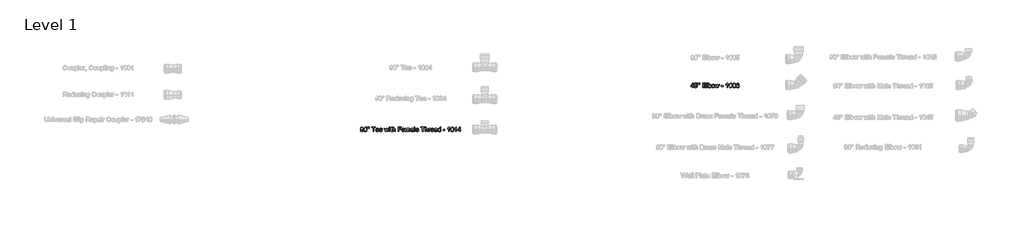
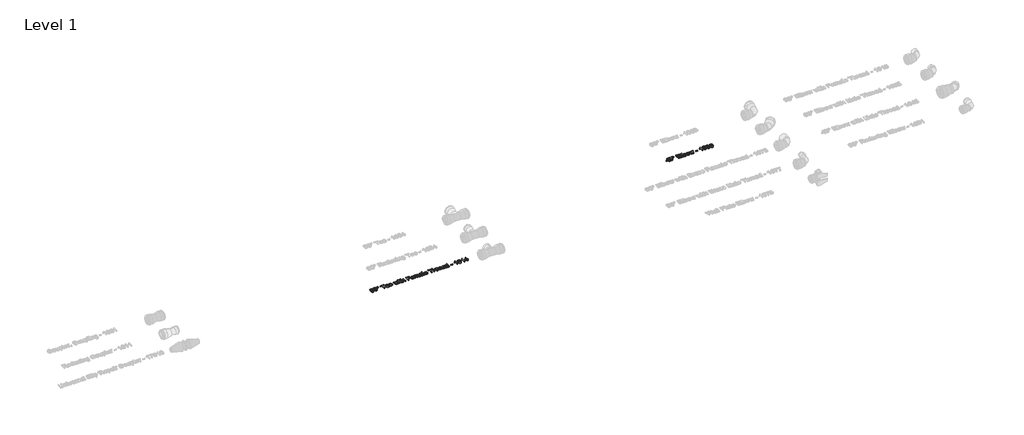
# One storey, part 3 of 13: 2 proxies.
"""IFC4 building model written with IfcOpenShell, lengths in millimetres."""

from ifc_helpers import new_model, si_unit, origin, origin_with_axes, place, context, project, spatial, polyline, outline, extrude, element, save

model = new_model("IFC4")

# Units and contexts
model_context = context("Model", 3, world=origin())
ifc_project = project(units=[si_unit("LENGTHUNIT", "METRE", prefix="MILLI")], contexts=[model_context])

# Site, building, storey
site = spatial("IfcSite", under=ifc_project)
building = spatial("IfcBuilding", under=site)
storey = spatial("IfcBuildingStorey", under=building, Name="Level 1", Elevation=0.0)

# Proxies
placement = place(None, origin())
element("IfcBuildingElementProxy", 1, Name="30 mm Arial", ObjectType="30 mm Arial", at=placement, inside=storey, context=model_context, shape_type="SweptSolid", body=[
    extrude(outline(polyline([(12191.1808706, 4725.613085), (12191.1808706, 4732.5361619), (12177.7962552, 4732.5361619), (12177.7962552, 4736.2284696), (12192.1039475, 4754.6900081), (12194.8731783, 4754.6900081), (12194.8731783, 4736.2284696), (12198.565486, 4736.2284696), (12198.565486, 4732.5361619), (12194.8731783, 4732.5361619), (12194.8731783, 4725.613085), (12191.1808706, 4725.613085)]), holes=[polyline([(12191.1808706, 4736.2284696), (12191.1808706, 4747.6371235), (12182.3395244, 4736.2284696), (12191.1808706, 4736.2284696)])]), origin_with_axes(), (0.0, 0.0, 1.0), 5.0),
    extrude(outline(polyline([(12201.7962552, 4733.4592389), (12205.4885629, 4733.9207773), (12207.3491398, 4730.1166908), (12211.2073129, 4728.8438542), (12215.8371206, 4730.6142869), (12217.4885629, 4735.3126042), (12215.9416879, 4739.6972196), (12211.2650052, 4741.3053927), (12208.0234186, 4740.6635658), (12205.9501013, 4738.9977004), (12202.2577936, 4739.4592389), (12205.4885629, 4754.6900081), (12219.7962552, 4754.6900081), (12219.7962552, 4750.9977004), (12208.4741398, 4750.9977004), (12206.8948129, 4742.863085), (12212.2962552, 4744.9977004), (12218.6099571, 4742.3510658), (12221.1808706, 4735.5433735), (12218.8659667, 4728.6924119), (12211.1928898, 4725.1515465), (12204.6772648, 4727.4267869), (12201.7962552, 4733.4592389)])), origin_with_axes(), (0.0, 0.0, 1.0), 5.0),
    extrude(outline(polyline([(12225.3347167, 4750.081835), (12226.9609186, 4753.9977004), (12230.8659667, 4755.613085), (12234.7962552, 4753.9977004), (12236.4116398, 4750.081835), (12234.7854379, 4746.1623639), (12230.8659667, 4744.5361619), (12226.9609186, 4746.1515465), (12225.3347167, 4750.081835)]), holes=[polyline([(12227.642409, 4750.0746235), (12228.5907263, 4747.7885658), (12230.8803898, 4746.8438542), (12233.1556302, 4747.7885658), (12234.1039475, 4750.0746235), (12233.1556302, 4752.3606812), (12230.8803898, 4753.3053927), (12228.5907263, 4752.3606812), (12227.642409, 4750.0746235)])]), origin_with_axes(), (0.0, 0.0, 1.0), 5.0),
    extrude(outline(polyline([(12253.9501013, 4725.613085), (12253.9501013, 4755.1515465), (12275.1808706, 4755.1515465), (12275.1808706, 4751.4592389), (12257.642409, 4751.4592389), (12257.642409, 4742.6900081), (12274.2577936, 4742.6900081), (12274.2577936, 4738.9977004), (12257.642409, 4738.9977004), (12257.642409, 4729.3053927), (12275.642409, 4729.3053927), (12275.642409, 4725.613085), (12253.9501013, 4725.613085)])), origin_with_axes(), (0.0, 0.0, 1.0), 5.0),
    extrude(outline(polyline([(12280.7193321, 4725.613085), (12280.7193321, 4755.1515465), (12284.4116398, 4755.1515465), (12284.4116398, 4725.613085), (12280.7193321, 4725.613085)])), origin_with_axes(), (0.0, 0.0, 1.0), 5.0),
    extrude(outline(polyline([(12293.642409, 4725.613085), (12289.9501013, 4725.613085), (12289.9501013, 4755.1515465), (12293.642409, 4755.1515465), (12293.642409, 4744.1972196), (12299.440486, 4747.7669312), (12303.1400052, 4746.9628446), (12306.0101975, 4744.7020273), (12307.7734186, 4741.1864023), (12308.4116398, 4736.7837581), (12305.768611, 4728.1876042), (12299.4188513, 4725.1515465), (12293.642409, 4729.0674119), (12293.642409, 4725.613085)]), holes=[polyline([(12293.642409, 4736.6106812), (12294.6520244, 4731.4472196), (12299.1015436, 4728.8438542), (12303.0534667, 4730.7621235), (12304.7193321, 4736.4808735), (12303.1219763, 4742.2212581), (12299.2601975, 4744.0746235), (12295.3082744, 4742.1563542), (12293.642409, 4736.6106812)])]), origin_with_axes(), (0.0, 0.0, 1.0), 5.0),
    extrude(outline(polyline([(12311.642409, 4736.4592389), (12314.8371206, 4745.3654889), (12321.3419283, 4747.7669312), (12328.3190917, 4744.8426523), (12331.0270244, 4736.7621235), (12329.829909, 4730.1924119), (12326.3431302, 4726.4748639), (12321.3419283, 4725.1515465), (12314.3214956, 4728.0650081), (12311.642409, 4736.4592389)]), holes=[polyline([(12315.3347167, 4736.4664504), (12317.0438513, 4730.7440946), (12321.3419283, 4728.8438542), (12325.6255821, 4730.7549119), (12327.3347167, 4736.581835), (12325.6147648, 4742.1743831), (12321.3419283, 4744.0746235), (12317.0438513, 4742.1815946), (12315.3347167, 4736.4664504)])]), origin_with_axes(), (0.0, 0.0, 1.0), 5.0),
    extrude(outline(polyline([(12338.7794283, 4725.613085), (12332.1808706, 4747.3053927), (12336.017409, 4747.3053927), (12339.7601975, 4734.6491427), (12340.877986, 4730.1275081), (12341.7938513, 4734.4832773), (12344.7722167, 4747.3053927), (12349.1712552, 4747.3053927), (12352.1351975, 4734.519335), (12352.9501013, 4730.5746235), (12354.1183706, 4734.7356812), (12357.8683706, 4747.3053927), (12361.7193321, 4747.3053927), (12355.0702936, 4725.613085), (12350.6063513, 4725.613085), (12347.7722167, 4738.3342389), (12346.9501013, 4742.300585), (12343.2938513, 4725.613085), (12338.7794283, 4725.613085)])), origin_with_axes(), (0.0, 0.0, 1.0), 5.0),
    extrude(outline(polyline([(12373.9501013, 4734.3823158), (12373.9501013, 4738.0746235), (12385.4885629, 4738.0746235), (12385.4885629, 4734.3823158), (12373.9501013, 4734.3823158)])), origin_with_axes(), (0.0, 0.0, 1.0), 5.0),
    extrude(outline(polyline([(12414.1039475, 4725.613085), (12410.4116398, 4725.613085), (12410.4116398, 4748.6323158), (12406.9140436, 4746.1407292), (12403.0270244, 4744.2765465), (12403.0270244, 4747.7669312), (12408.439284, 4751.2212581), (12411.7241398, 4755.1515465), (12414.1039475, 4755.1515465), (12414.1039475, 4725.613085)])), origin_with_axes(), (0.0, 0.0, 1.0), 5.0),
    extrude(outline(polyline([(12422.8731783, 4740.144335), (12423.9585148, 4748.6431331), (12427.1820725, 4753.5433735), (12432.565486, 4755.1515465), (12436.877986, 4754.1996235), (12439.8563513, 4751.4556331), (12441.5871206, 4747.0854408), (12442.2577936, 4740.144335), (12441.1832744, 4731.6815946), (12437.970534, 4726.7705369), (12432.565486, 4725.1515465), (12425.815486, 4727.9640465), (12422.8731783, 4740.144335)]), holes=[polyline([(12426.565486, 4740.1515465), (12428.2962552, 4730.9820754), (12432.565486, 4728.8438542), (12436.8347167, 4730.9892869), (12438.565486, 4740.1515465), (12436.892409, 4749.2164504), (12432.5222167, 4751.4592389), (12428.3539475, 4749.4832773), (12426.565486, 4740.1515465)])]), origin_with_axes(), (0.0, 0.0, 1.0), 5.0),
    extrude(outline(polyline([(12445.4885629, 4740.144335), (12446.5738994, 4748.6431331), (12449.7974571, 4753.5433735), (12455.1808706, 4755.1515465), (12459.4933706, 4754.1996235), (12462.471736, 4751.4556331), (12464.2025052, 4747.0854408), (12464.8731783, 4740.144335), (12463.798659, 4731.6815946), (12460.5859186, 4726.7705369), (12455.1808706, 4725.1515465), (12448.4308706, 4727.9640465), (12445.4885629, 4740.144335)]), holes=[polyline([(12449.1808706, 4740.1515465), (12450.9116398, 4730.9820754), (12455.1808706, 4728.8438542), (12459.4501013, 4730.9892869), (12461.1808706, 4740.1515465), (12459.5077936, 4749.2164504), (12455.1376013, 4751.4592389), (12450.9693321, 4749.4832773), (12449.1808706, 4740.1515465)])]), origin_with_axes(), (0.0, 0.0, 1.0), 5.0),
    extrude(outline(polyline([(12487.0270244, 4747.3053927), (12483.3347167, 4746.8438542), (12481.9356783, 4749.9231812), (12478.236159, 4751.4592389), (12474.9044283, 4750.5650081), (12472.3839956, 4747.2080369), (12471.3347167, 4740.6275081), (12474.5907263, 4743.5734215), (12478.6255821, 4744.5361619), (12484.8996206, 4741.9039504), (12487.4885629, 4735.1034696), (12486.2698129, 4730.0085177), (12482.9164475, 4726.4027485), (12478.0775052, 4725.1515465), (12470.5522648, 4728.4688542), (12467.642409, 4739.4015465), (12470.8731783, 4751.7837581), (12478.4669283, 4755.1515465), (12484.3010629, 4753.0674119), (12487.0270244, 4747.3053927)]), holes=[polyline([(12471.3347167, 4735.1611619), (12472.189284, 4731.9628446), (12474.4609186, 4729.6407292), (12477.7890436, 4728.8438542), (12482.1412071, 4730.4952965), (12483.7962552, 4734.9808735), (12482.1628417, 4739.2753446), (12477.6376013, 4740.8438542), (12473.1700533, 4739.2753446), (12471.3347167, 4735.1611619)])]), origin_with_axes(), (0.0, 0.0, 1.0), 5.0),
])
element("IfcBuildingElementProxy", 2, Name="30 mm Arial", ObjectType="30 mm Arial", at=placement, inside=storey, context=model_context, shape_type="SweptSolid", body=[
    extrude(outline(polyline([(10073.4140794, 4452.5820673), (10077.1063871, 4453.0436057), (10078.7650409, 4449.5207692), (10081.9092717, 4448.4282211), (10084.8984544, 4449.1313461), (10086.9248967, 4451.0099519), (10088.1328294, 4454.2190865), (10088.6664832, 4458.5027403), (10085.6917236, 4456.4258173), (10081.6424447, 4455.351298), (10075.4729736, 4457.976298), (10072.9525409, 4464.8921634), (10075.5955697, 4472.0315865), (10082.2193678, 4474.7359134), (10087.4801851, 4473.1926442), (10091.1003774, 4468.7936057), (10092.3371563, 4460.5291827), (10091.1039832, 4451.5616346), (10087.4369159, 4446.4811057), (10081.7361947, 4444.7359134), (10076.060714, 4446.7948077), (10073.4140794, 4452.5820673)]), holes=[polyline([(10088.6448486, 4464.9787019), (10087.0510986, 4469.4065865), (10082.8179255, 4471.0436057), (10078.3756178, 4469.2803846), (10076.6448486, 4464.711875), (10078.2818678, 4460.6193269), (10082.716964, 4459.0436057), (10086.9753774, 4460.6193269), (10088.6448486, 4464.9787019)])]), origin_with_axes(), (0.0, 0.0, 1.0), 5.0),
    extrude(outline(polyline([(10095.5679255, 4459.7287019), (10096.6532621, 4468.2275), (10099.8768197, 4473.1277403), (10105.2602332, 4474.7359134), (10109.5727332, 4473.7839903), (10112.5510986, 4471.04), (10114.2818678, 4466.6698077), (10114.9525409, 4459.7287019), (10113.8780217, 4451.2659615), (10110.6652813, 4446.3549038), (10105.2602332, 4444.7359134), (10098.5102332, 4447.5484134), (10095.5679255, 4459.7287019)]), holes=[polyline([(10099.2602332, 4459.7359134), (10100.9910024, 4450.5664423), (10105.2602332, 4448.4282211), (10109.529464, 4450.5736538), (10111.2602332, 4459.7359134), (10109.5871563, 4468.8008173), (10105.216964, 4471.0436057), (10101.0486947, 4469.0676442), (10099.2602332, 4459.7359134)])]), origin_with_axes(), (0.0, 0.0, 1.0), 5.0),
    extrude(outline(polyline([(10119.1063871, 4469.6662019), (10120.732589, 4473.5820673), (10124.6376371, 4475.1974519), (10128.5679255, 4473.5820673), (10130.1833101, 4469.6662019), (10128.5571082, 4465.7467307), (10124.6376371, 4464.1205288), (10120.732589, 4465.7359134), (10119.1063871, 4469.6662019)]), holes=[polyline([(10121.4140794, 4469.6589903), (10122.3623967, 4467.3729327), (10124.6520601, 4466.4282211), (10126.9273005, 4467.3729327), (10127.8756178, 4469.6589903), (10126.9273005, 4471.945048), (10124.6520601, 4472.8897596), (10122.3623967, 4471.945048), (10121.4140794, 4469.6589903)])]), origin_with_axes(), (0.0, 0.0, 1.0), 5.0),
    extrude(outline(polyline([(10155.1063871, 4445.1974519), (10155.1063871, 4471.0436057), (10145.4140794, 4471.0436057), (10145.4140794, 4474.7359134), (10168.4910024, 4474.7359134), (10168.4910024, 4471.0436057), (10158.7986947, 4471.0436057), (10158.7986947, 4445.1974519), (10155.1063871, 4445.1974519)])), origin_with_axes(), (0.0, 0.0, 1.0), 5.0),
    extrude(outline(polyline([(10187.3708101, 4451.6589903), (10190.9910024, 4451.1974519), (10187.6051851, 4446.430625), (10181.2986947, 4444.7359134), (10173.6328294, 4447.6601923), (10170.7986947, 4455.8633173), (10173.6616755, 4464.336875), (10181.0895601, 4467.351298), (10188.3047044, 4464.3440865), (10191.1063871, 4455.8849519), (10174.4910024, 4454.8897596), (10176.6148005, 4450.0940865), (10181.3708101, 4448.4282211), (10184.9910024, 4449.1998557), (10187.3708101, 4451.6589903)]), holes=[polyline([(10174.4910024, 4458.5820673), (10187.4140794, 4458.5820673), (10185.935714, 4461.9282211), (10181.0751371, 4463.6589903), (10176.5282621, 4462.2779807), (10174.4910024, 4458.5820673)])]), origin_with_axes(), (0.0, 0.0, 1.0), 5.0),
    extrude(outline(polyline([(10209.9861947, 4451.6589903), (10213.6063871, 4451.1974519), (10210.2205697, 4446.430625), (10203.9140794, 4444.7359134), (10196.248214, 4447.6601923), (10193.4140794, 4455.8633173), (10196.2770601, 4464.336875), (10203.7049447, 4467.351298), (10210.920089, 4464.3440865), (10213.7217717, 4455.8849519), (10197.1063871, 4454.8897596), (10199.2301851, 4450.0940865), (10203.9861947, 4448.4282211), (10207.6063871, 4449.1998557), (10209.9861947, 4451.6589903)]), holes=[polyline([(10197.1063871, 4458.5820673), (10210.029464, 4458.5820673), (10208.5510986, 4461.9282211), (10203.6905217, 4463.6589903), (10199.1436467, 4462.2779807), (10197.1063871, 4458.5820673)])]), origin_with_axes(), (0.0, 0.0, 1.0), 5.0),
    extrude(outline(polyline([(10232.5510986, 4445.1974519), (10225.9525409, 4466.8897596), (10229.7890794, 4466.8897596), (10233.5318678, 4454.2335096), (10234.6496563, 4449.711875), (10235.5655217, 4454.0676442), (10238.5438871, 4466.8897596), (10242.9429255, 4466.8897596), (10245.9068678, 4454.1037019), (10246.7217717, 4450.1589903), (10247.8900409, 4454.320048), (10251.6400409, 4466.8897596), (10255.4910024, 4466.8897596), (10248.841964, 4445.1974519), (10244.3780217, 4445.1974519), (10241.5438871, 4457.9186057), (10240.7217717, 4461.8849519), (10237.0655217, 4445.1974519), (10232.5510986, 4445.1974519)])), origin_with_axes(), (0.0, 0.0, 1.0), 5.0),
    extrude(outline(polyline([(10258.029464, 4471.0436057), (10258.029464, 4474.7359134), (10261.7217717, 4474.7359134), (10261.7217717, 4471.0436057), (10258.029464, 4471.0436057)])), origin_with_axes(), (0.0, 0.0, 1.0), 5.0),
    extrude(outline(polyline([(10258.029464, 4445.1974519), (10258.029464, 4466.8897596), (10261.7217717, 4466.8897596), (10261.7217717, 4445.1974519), (10258.029464, 4445.1974519)])), origin_with_axes(), (0.0, 0.0, 1.0), 5.0),
    extrude(outline(polyline([(10275.1063871, 4448.2767788), (10275.5679255, 4445.0892788), (10272.8059063, 4444.7359134), (10269.7121563, 4445.3488942), (10268.1688871, 4446.9570673), (10267.7217717, 4451.1469711), (10267.7217717, 4463.1974519), (10264.9525409, 4463.1974519), (10264.9525409, 4466.8897596), (10267.7217717, 4466.8897596), (10267.7217717, 4472.1613942), (10271.4140794, 4474.3320673), (10271.4140794, 4466.8897596), (10275.1063871, 4466.8897596), (10275.1063871, 4463.1974519), (10271.4140794, 4463.1974519), (10271.4140794, 4451.2551442), (10271.6087909, 4449.351298), (10275.1063871, 4448.2767788)])), origin_with_axes(), (0.0, 0.0, 1.0), 5.0),
    extrude(outline(polyline([(10278.7986947, 4445.1974519), (10278.7986947, 4474.7359134), (10282.4910024, 4474.7359134), (10282.4910024, 4463.8753365), (10288.9164832, 4467.351298), (10293.0631178, 4466.4029807), (10295.5799447, 4463.7815865), (10296.3371563, 4458.9282211), (10296.3371563, 4445.1974519), (10292.6448486, 4445.1974519), (10292.6448486, 4458.5460096), (10291.4693678, 4462.4402403), (10288.1376371, 4463.6589903), (10285.1123967, 4462.836875), (10283.0931659, 4460.6085096), (10282.4910024, 4456.7214903), (10282.4910024, 4445.1974519), (10278.7986947, 4445.1974519)])), origin_with_axes(), (0.0, 0.0, 1.0), 5.0),
    extrude(outline(polyline([(10313.4140794, 4445.1974519), (10313.4140794, 4474.7359134), (10333.2602332, 4474.7359134), (10333.2602332, 4471.0436057), (10317.1063871, 4471.0436057), (10317.1063871, 4462.274375), (10330.9525409, 4462.274375), (10330.9525409, 4458.5820673), (10317.1063871, 4458.5820673), (10317.1063871, 4445.1974519), (10313.4140794, 4445.1974519)])), origin_with_axes(), (0.0, 0.0, 1.0), 5.0),
    extrude(outline(polyline([(10353.0631178, 4451.6589903), (10356.6833101, 4451.1974519), (10353.2974928, 4446.430625), (10346.9910024, 4444.7359134), (10339.3251371, 4447.6601923), (10336.4910024, 4455.8633173), (10339.3539832, 4464.336875), (10346.7818678, 4467.351298), (10353.9970121, 4464.3440865), (10356.7986947, 4455.8849519), (10340.1833101, 4454.8897596), (10342.3071082, 4450.0940865), (10347.0631178, 4448.4282211), (10350.6833101, 4449.1998557), (10353.0631178, 4451.6589903)]), holes=[polyline([(10340.1833101, 4458.5820673), (10353.1063871, 4458.5820673), (10351.6280217, 4461.9282211), (10346.7674447, 4463.6589903), (10342.2205697, 4462.2779807), (10340.1833101, 4458.5820673)])]), origin_with_axes(), (0.0, 0.0, 1.0), 5.0),
    extrude(outline(polyline([(10360.4910024, 4445.1974519), (10360.4910024, 4466.8897596), (10364.1833101, 4466.8897596), (10364.1833101, 4463.320048), (10366.7217717, 4466.2443269), (10370.3347524, 4467.351298), (10374.0342717, 4466.2226923), (10376.0679255, 4463.0604327), (10382.5871563, 4467.351298), (10387.4152813, 4465.5664423), (10389.1063871, 4460.0676442), (10389.1063871, 4445.1974519), (10385.4140794, 4445.1974519), (10385.4140794, 4458.4811057), (10385.0715313, 4461.5640384), (10383.8311467, 4463.0820673), (10381.7217717, 4463.6589903), (10378.0907621, 4462.180625), (10376.6448486, 4457.4426442), (10376.6448486, 4445.1974519), (10372.9525409, 4445.1974519), (10372.9525409, 4458.8921634), (10372.0979736, 4462.4690865), (10369.2962909, 4463.6589903), (10366.5631178, 4462.8657211), (10364.7458101, 4460.5436057), (10364.1833101, 4456.1373557), (10364.1833101, 4445.1974519), (10360.4910024, 4445.1974519)])), origin_with_axes(), (0.0, 0.0, 1.0), 5.0),
    extrude(outline(polyline([(10408.4910024, 4447.9666827), (10404.9104736, 4445.4642788), (10400.9549447, 4444.7359134), (10395.5931659, 4446.4883173), (10393.7217717, 4450.9666827), (10394.4285024, 4453.8873557), (10396.2854736, 4456.007548), (10398.8708101, 4457.2190865), (10402.0655217, 4457.774375), (10408.4693678, 4459.0436057), (10407.4741755, 4462.5916827), (10403.3924447, 4463.6589903), (10399.6568678, 4462.9486538), (10397.8756178, 4460.4282211), (10394.1833101, 4460.8897596), (10395.7806659, 4464.4955288), (10398.9970121, 4466.6085096), (10403.8684063, 4467.351298), (10408.3431659, 4466.695048), (10410.8708101, 4465.0472115), (10412.0030217, 4462.5412019), (10412.1833101, 4459.3104327), (10412.1833101, 4454.7166827), (10412.3708101, 4448.3020192), (10413.1063871, 4445.1974519), (10409.4140794, 4445.1974519), (10408.4910024, 4447.9666827)]), holes=[polyline([(10408.4801851, 4454.8284615), (10402.5342717, 4454.2190865), (10399.357589, 4453.6205288), (10397.9188871, 4452.6469711), (10398.513839, 4449.2287019), (10401.7410024, 4448.4282211), (10405.4765794, 4449.3116346), (10407.8852332, 4451.4498557), (10408.4801851, 4454.8284615)])]), origin_with_axes(), (0.0, 0.0, 1.0), 5.0),
    extrude(outline(polyline([(10417.2602332, 4445.1974519), (10417.2602332, 4474.7359134), (10420.9525409, 4474.7359134), (10420.9525409, 4445.1974519), (10417.2602332, 4445.1974519)])), origin_with_axes(), (0.0, 0.0, 1.0), 5.0),
    extrude(outline(polyline([(10441.6785024, 4451.6589903), (10445.2986947, 4451.1974519), (10441.9128774, 4446.430625), (10435.6063871, 4444.7359134), (10427.9405217, 4447.6601923), (10425.1063871, 4455.8633173), (10427.9693678, 4464.336875), (10435.3972524, 4467.351298), (10442.6123967, 4464.3440865), (10445.4140794, 4455.8849519), (10428.7986947, 4454.8897596), (10430.9224928, 4450.0940865), (10435.6785024, 4448.4282211), (10439.2986947, 4449.1998557), (10441.6785024, 4451.6589903)]), holes=[polyline([(10428.7986947, 4458.5820673), (10441.7217717, 4458.5820673), (10440.2434063, 4461.9282211), (10435.3828294, 4463.6589903), (10430.8359544, 4462.2779807), (10428.7986947, 4458.5820673)])]), origin_with_axes(), (0.0, 0.0, 1.0), 5.0),
    extrude(outline(polyline([(10468.4910024, 4445.1974519), (10468.4910024, 4471.0436057), (10458.7986947, 4471.0436057), (10458.7986947, 4474.7359134), (10481.8756178, 4474.7359134), (10481.8756178, 4471.0436057), (10472.1833101, 4471.0436057), (10472.1833101, 4445.1974519), (10468.4910024, 4445.1974519)])), origin_with_axes(), (0.0, 0.0, 1.0), 5.0),
    extrude(outline(polyline([(10485.5679255, 4445.1974519), (10485.5679255, 4474.7359134), (10489.2602332, 4474.7359134), (10489.2602332, 4463.8753365), (10495.685714, 4467.351298), (10499.8323486, 4466.4029807), (10502.3491755, 4463.7815865), (10503.1063871, 4458.9282211), (10503.1063871, 4445.1974519), (10499.4140794, 4445.1974519), (10499.4140794, 4458.5460096), (10498.2385986, 4462.4402403), (10494.9068678, 4463.6589903), (10491.8816274, 4462.836875), (10489.8623967, 4460.6085096), (10489.2602332, 4456.7214903), (10489.2602332, 4445.1974519), (10485.5679255, 4445.1974519)])), origin_with_axes(), (0.0, 0.0, 1.0), 5.0),
    extrude(outline(polyline([(10508.1833101, 4445.1974519), (10508.1833101, 4466.8897596), (10511.4140794, 4466.8897596), (10511.4140794, 4463.680625), (10513.7073486, 4466.6373557), (10516.0150409, 4467.351298), (10519.7217717, 4466.211875), (10518.4885986, 4462.9017788), (10515.8924447, 4463.6589903), (10513.8047044, 4462.930625), (10512.4741755, 4460.9113942), (10511.8756178, 4456.5988942), (10511.8756178, 4445.1974519), (10508.1833101, 4445.1974519)])), origin_with_axes(), (0.0, 0.0, 1.0), 5.0),
    extrude(outline(polyline([(10537.216964, 4451.6589903), (10540.8371563, 4451.1974519), (10537.451339, 4446.430625), (10531.1448486, 4444.7359134), (10523.4789832, 4447.6601923), (10520.6448486, 4455.8633173), (10523.5078294, 4464.336875), (10530.935714, 4467.351298), (10538.1508582, 4464.3440865), (10540.9525409, 4455.8849519), (10524.3371563, 4454.8897596), (10526.4609544, 4450.0940865), (10531.216964, 4448.4282211), (10534.8371563, 4449.1998557), (10537.216964, 4451.6589903)]), holes=[polyline([(10524.3371563, 4458.5820673), (10537.2602332, 4458.5820673), (10535.7818678, 4461.9282211), (10530.9212909, 4463.6589903), (10526.3744159, 4462.2779807), (10524.3371563, 4458.5820673)])]), origin_with_axes(), (0.0, 0.0, 1.0), 5.0),
    extrude(outline(polyline([(10558.4910024, 4447.9666827), (10554.9104736, 4445.4642788), (10550.9549447, 4444.7359134), (10545.5931659, 4446.4883173), (10543.7217717, 4450.9666827), (10544.4285024, 4453.8873557), (10546.2854736, 4456.007548), (10548.8708101, 4457.2190865), (10552.0655217, 4457.774375), (10558.4693678, 4459.0436057), (10557.4741755, 4462.5916827), (10553.3924447, 4463.6589903), (10549.6568678, 4462.9486538), (10547.8756178, 4460.4282211), (10544.1833101, 4460.8897596), (10545.7806659, 4464.4955288), (10548.9970121, 4466.6085096), (10553.8684063, 4467.351298), (10558.3431659, 4466.695048), (10560.8708101, 4465.0472115), (10562.0030217, 4462.5412019), (10562.1833101, 4459.3104327), (10562.1833101, 4454.7166827), (10562.3708101, 4448.3020192), (10563.1063871, 4445.1974519), (10559.4140794, 4445.1974519), (10558.4910024, 4447.9666827)]), holes=[polyline([(10558.4801851, 4454.8284615), (10552.5342717, 4454.2190865), (10549.357589, 4453.6205288), (10547.9188871, 4452.6469711), (10548.513839, 4449.2287019), (10551.7410024, 4448.4282211), (10555.4765794, 4449.3116346), (10557.8852332, 4451.4498557), (10558.4801851, 4454.8284615)])]), origin_with_axes(), (0.0, 0.0, 1.0), 5.0),
    extrude(outline(polyline([(10580.6448486, 4445.1974519), (10580.6448486, 4448.680625), (10574.8251371, 4444.7359134), (10570.2530217, 4446.163798), (10567.0222524, 4450.148173), (10565.8756178, 4456.0219711), (10566.9321082, 4461.899375), (10570.0979736, 4465.945048), (10574.810714, 4467.351298), (10578.2145601, 4466.3452884), (10580.6448486, 4463.7311057), (10580.6448486, 4474.7359134), (10584.3371563, 4474.7359134), (10584.3371563, 4445.1974519), (10580.6448486, 4445.1974519)]), holes=[polyline([(10569.5679255, 4456.0363942), (10571.2337909, 4450.32125), (10575.1640794, 4448.4282211), (10579.0474928, 4450.2347115), (10580.6448486, 4455.7551442), (10579.0186467, 4461.7479327), (10575.0126371, 4463.6589903), (10571.1256178, 4461.8236538), (10569.5679255, 4456.0363942)])]), origin_with_axes(), (0.0, 0.0, 1.0), 5.0),
    extrude(outline(polyline([(10599.5679255, 4453.9666827), (10599.5679255, 4457.6589903), (10611.1063871, 4457.6589903), (10611.1063871, 4453.9666827), (10599.5679255, 4453.9666827)])), origin_with_axes(), (0.0, 0.0, 1.0), 5.0),
    extrude(outline(polyline([(10639.7217717, 4445.1974519), (10636.029464, 4445.1974519), (10636.029464, 4468.2166827), (10632.5318678, 4465.7250961), (10628.6448486, 4463.8609134), (10628.6448486, 4467.351298), (10634.0571082, 4470.805625), (10637.341964, 4474.7359134), (10639.7217717, 4474.7359134), (10639.7217717, 4445.1974519)])), origin_with_axes(), (0.0, 0.0, 1.0), 5.0),
    extrude(outline(polyline([(10648.4910024, 4459.7287019), (10649.576339, 4468.2275), (10652.7998967, 4473.1277403), (10658.1833101, 4474.7359134), (10662.4958101, 4473.7839903), (10665.4741755, 4471.04), (10667.2049447, 4466.6698077), (10667.8756178, 4459.7287019), (10666.8010986, 4451.2659615), (10663.5883582, 4446.3549038), (10658.1833101, 4444.7359134), (10651.4333101, 4447.5484134), (10648.4910024, 4459.7287019)]), holes=[polyline([(10652.1833101, 4459.7359134), (10653.9140794, 4450.5664423), (10658.1833101, 4448.4282211), (10662.4525409, 4450.5736538), (10664.1833101, 4459.7359134), (10662.5102332, 4468.8008173), (10658.1400409, 4471.0436057), (10653.9717717, 4469.0676442), (10652.1833101, 4459.7359134)])]), origin_with_axes(), (0.0, 0.0, 1.0), 5.0),
    extrude(outline(polyline([(10684.9525409, 4445.1974519), (10681.2602332, 4445.1974519), (10681.2602332, 4468.2166827), (10677.7626371, 4465.7250961), (10673.8756178, 4463.8609134), (10673.8756178, 4467.351298), (10679.2878774, 4470.805625), (10682.5727332, 4474.7359134), (10684.9525409, 4474.7359134), (10684.9525409, 4445.1974519)])), origin_with_axes(), (0.0, 0.0, 1.0), 5.0),
    extrude(outline(polyline([(10705.7217717, 4445.1974519), (10705.7217717, 4452.1205288), (10692.3371563, 4452.1205288), (10692.3371563, 4455.8128365), (10706.6448486, 4474.274375), (10709.4140794, 4474.274375), (10709.4140794, 4455.8128365), (10713.1063871, 4455.8128365), (10713.1063871, 4452.1205288), (10709.4140794, 4452.1205288), (10709.4140794, 4445.1974519), (10705.7217717, 4445.1974519)]), holes=[polyline([(10705.7217717, 4455.8128365), (10705.7217717, 4467.2214903), (10696.8804255, 4455.8128365), (10705.7217717, 4455.8128365)])]), origin_with_axes(), (0.0, 0.0, 1.0), 5.0),
])

save(model, "model.ifc")
